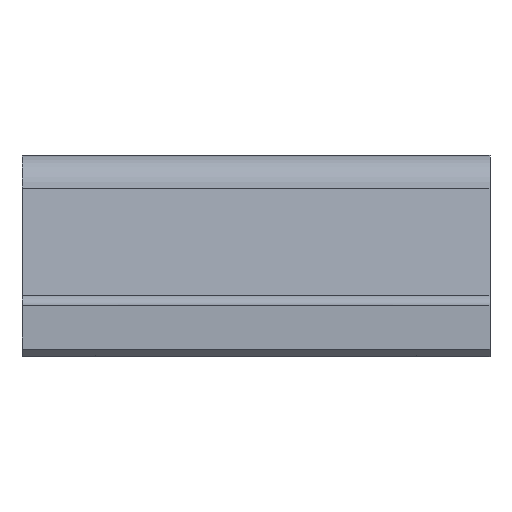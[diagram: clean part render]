
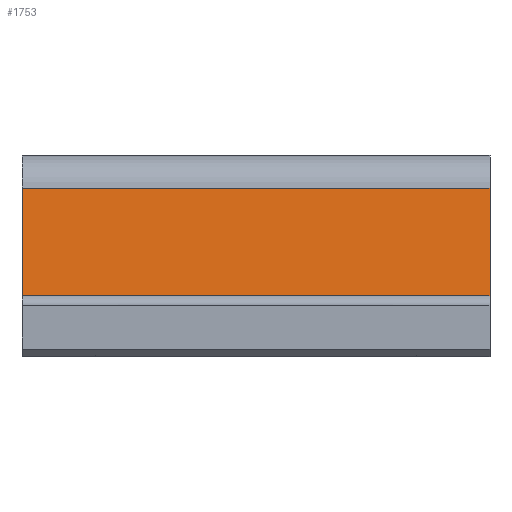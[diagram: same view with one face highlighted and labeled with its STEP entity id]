
A CAD part, front view. The second image highlights one B-rep face of the part: STEP entity #1753.
In plain terms, the highlighted planar face has unit normal (0, -0.995, 0.103).
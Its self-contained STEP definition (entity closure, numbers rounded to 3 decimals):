
#140 = FACE_OUTER_BOUND ( 'NONE', #1538, .T. ) ;
#148 = DIRECTION ( 'NONE',  ( 1., 0., 0. ) ) ;
#164 = VERTEX_POINT ( 'NONE', #768 ) ;
#204 = PLANE ( 'NONE',  #1793 ) ;
#354 = DIRECTION ( 'NONE',  ( 0., -0.103, -0.995 ) ) ;
#430 = EDGE_CURVE ( 'NONE', #164, #1213, #972, .T. ) ;
#482 = DIRECTION ( 'NONE',  ( 0., 0.103, 0.995 ) ) ;
#520 = VECTOR ( 'NONE', #148, 1000. ) ;
#562 = CARTESIAN_POINT ( 'NONE',  ( -64., -135.335, 6.845 ) ) ;
#648 = CARTESIAN_POINT ( 'NONE',  ( 0., -135.335, 6.845 ) ) ;
#710 = VERTEX_POINT ( 'NONE', #648 ) ;
#768 = CARTESIAN_POINT ( 'NONE',  ( -64., -133.821, 21.513 ) ) ;
#806 = VECTOR ( 'NONE', #1240, 1000. ) ;
#972 = LINE ( 'NONE', #1671, #806 ) ;
#982 = CARTESIAN_POINT ( 'NONE',  ( -64., -133.821, 21.513 ) ) ;
#990 = VECTOR ( 'NONE', #482, 1000. ) ;
#1027 = LINE ( 'NONE', #1312, #990 ) ;
#1039 = CARTESIAN_POINT ( 'NONE',  ( -64., -135.335, 6.845 ) ) ;
#1129 = ORIENTED_EDGE ( 'NONE', *, *, #1537, .T. ) ;
#1207 = EDGE_CURVE ( 'NONE', #710, #1213, #1027, .T. ) ;
#1213 = VERTEX_POINT ( 'NONE', #1588 ) ;
#1224 = CARTESIAN_POINT ( 'NONE',  ( -64., -135.335, 6.845 ) ) ;
#1240 = DIRECTION ( 'NONE',  ( 1., 0., 0. ) ) ;
#1296 = ORIENTED_EDGE ( 'NONE', *, *, #1517, .T. ) ;
#1312 = CARTESIAN_POINT ( 'NONE',  ( 0., -135.335, 6.845 ) ) ;
#1342 = ORIENTED_EDGE ( 'NONE', *, *, #1207, .T. ) ;
#1394 = DIRECTION ( 'NONE',  ( 0., -0.103, -0.995 ) ) ;
#1404 = ORIENTED_EDGE ( 'NONE', *, *, #430, .F. ) ;
#1436 = DIRECTION ( 'NONE',  ( 0., -0.995, 0.103 ) ) ;
#1477 = VERTEX_POINT ( 'NONE', #1224 ) ;
#1517 = EDGE_CURVE ( 'NONE', #164, #1477, #1525, .T. ) ;
#1525 = LINE ( 'NONE', #982, #1720 ) ;
#1537 = EDGE_CURVE ( 'NONE', #1477, #710, #1569, .T. ) ;
#1538 = EDGE_LOOP ( 'NONE', ( #1342, #1404, #1296, #1129 ) ) ;
#1569 = LINE ( 'NONE', #562, #520 ) ;
#1588 = CARTESIAN_POINT ( 'NONE',  ( 0., -133.821, 21.513 ) ) ;
#1671 = CARTESIAN_POINT ( 'NONE',  ( -64., -133.821, 21.513 ) ) ;
#1720 = VECTOR ( 'NONE', #1394, 1000. ) ;
#1753 = ADVANCED_FACE ( 'NONE', ( #140 ), #204, .T. ) ;
#1793 = AXIS2_PLACEMENT_3D ( 'NONE', #1039, #1436, #354 ) ;
